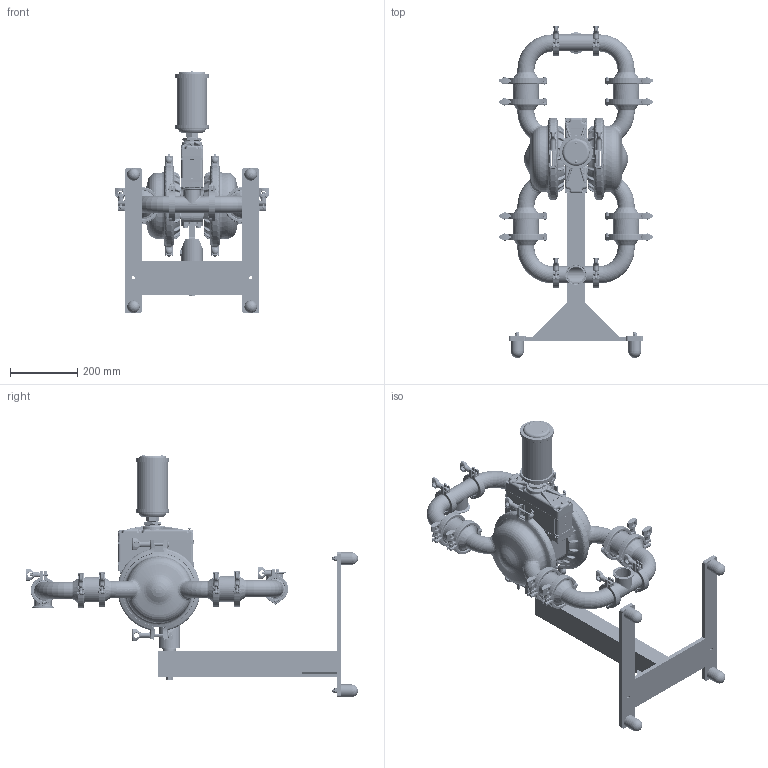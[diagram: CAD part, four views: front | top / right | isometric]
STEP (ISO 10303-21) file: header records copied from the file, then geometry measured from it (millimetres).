
FILE_DESCRIPTION((''),'2;1');
FILE_NAME('PS8_SS_SANIFLO_HS_BAL_SW0003','2015-04-07T',('nathan.hale'),(''),'PRO/ENGINEER BY PARAMETRIC TECHNOLOGY CORPORATION, 2013320','PRO/ENGINEER BY PARAMETRIC TECHNOLOGY CORPORATION, 2013320','');
FILE_SCHEMA(('CONFIG_CONTROL_DESIGN'));
Products named in the file (1): PS8_SS_SANIFLO_HS_BAL_SW0003
Bounding box: 460.1 x 987.98 x 721.39 mm (x, y, z)
Volume: 8906507.7 mm3; surface area: 2621375 mm2
Topology: 21 solids, 46 shells, 18957 faces, 48951 edges, 30597 vertices
Faces by surface type: plane 10122, cylinder 2843, bspline 2323, torus 1975, cone 1050, sphere 489, extrusion 155
Entity records: 1045231 total; most frequent: CARTESIAN_POINT 598525, ORIENTED_EDGE 97512, DIRECTION 86382, EDGE_CURVE 48756, VERTEX_POINT 30597, VECTOR 30442, LINE 30287, AXIS2_PLACEMENT_3D 27970
